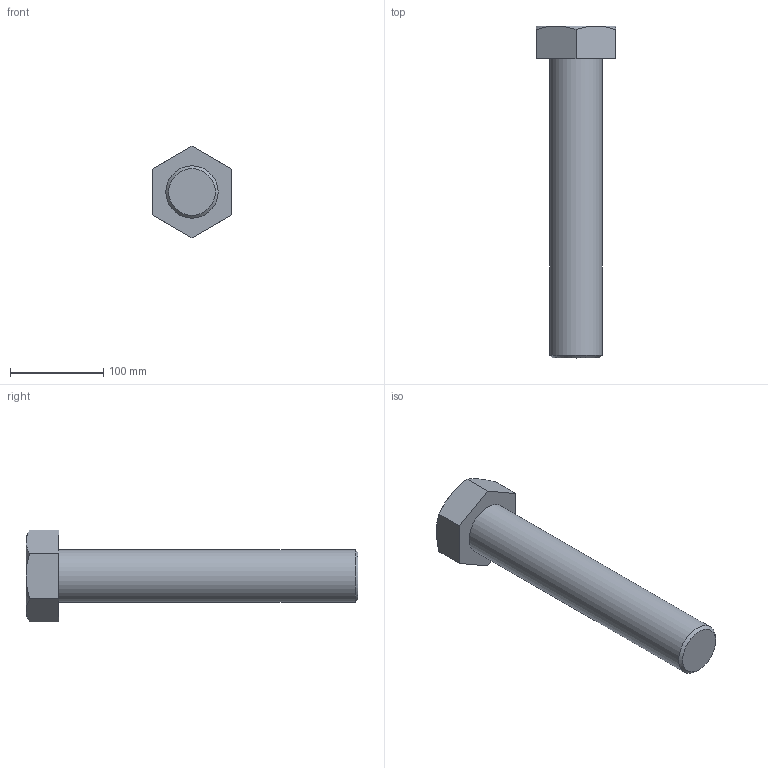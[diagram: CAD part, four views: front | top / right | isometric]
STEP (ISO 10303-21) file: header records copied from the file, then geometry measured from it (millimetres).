
FILE_DESCRIPTION(/* description */ (''),/* implementation_level */ '2;1');
FILE_NAME(/* name */ 'C:\Users\unitec\Documents\Inventor\各種小物\JIS\JIS B 1180 六角ボルト 等級C\hbc56\M56x320.stp',/* time_stamp */ '2015-02-13T15:00:22+09:00',/* author */ ('unitec'),/* organization */ (''),/* preprocessor_version */ 'ST-DEVELOPER v15.2',/* originating_system */ 'Autodesk Inventor 2014',/* authorisation */ '');
FILE_SCHEMA (('AUTOMOTIVE_DESIGN { 1 0 10303 214 3 1 1 }'));
Length unit declared in the file: millimetre
Products named in the file (1): M56x320
Bounding box: 85 x 355 x 98.15 mm (x, y, z)
Volume: 1005693.5 mm3; surface area: 78495.2 mm2
Topology: 1 solids, 1 shells, 17 faces, 35 edges, 21 vertices
Faces by surface type: plane 9, cone 7, cylinder 1
Full cylindrical faces by diameter (mm): 56 x1
Entity records: 441 total; most frequent: CARTESIAN_POINT 96, ORIENTED_EDGE 66, DIRECTION 66, EDGE_CURVE 33, AXIS2_PLACEMENT_3D 27, VERTEX_POINT 21, EDGE_LOOP 20, ADVANCED_FACE 17
